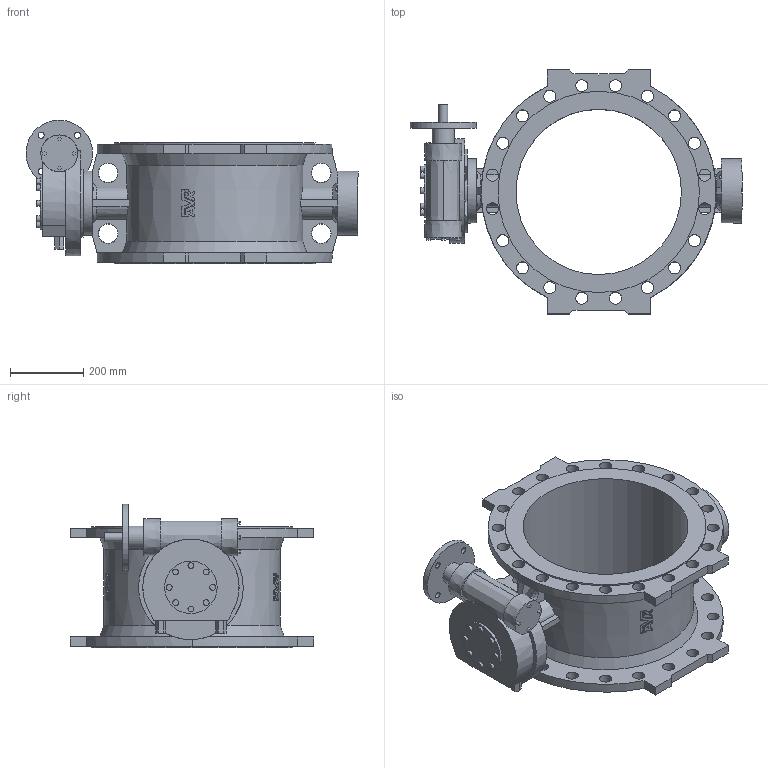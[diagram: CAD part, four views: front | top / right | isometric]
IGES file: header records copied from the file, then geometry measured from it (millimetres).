
Start section: SolidWorks IGES file using analytic representation for surfaces
Global section: file name: \\avksan2\techshare\PBM outline export from Enovia\O_756_102_DN450_1XX_AA0_igs.igs; native system: SolidWorks 2012; preprocessor: SolidWorks 2012; author: pbm; date: 160309.120122; units: millimetre
Bounding box: 903.5 x 664 x 391.4 mm (x, y, z)
Surface area: 2188757.1 mm2 (no closed solid volume)
Topology: 0 solids, 0 shells, 416 faces, 3202 edges, 3072 vertices
Faces by surface type: bspline 291, revolution 125
